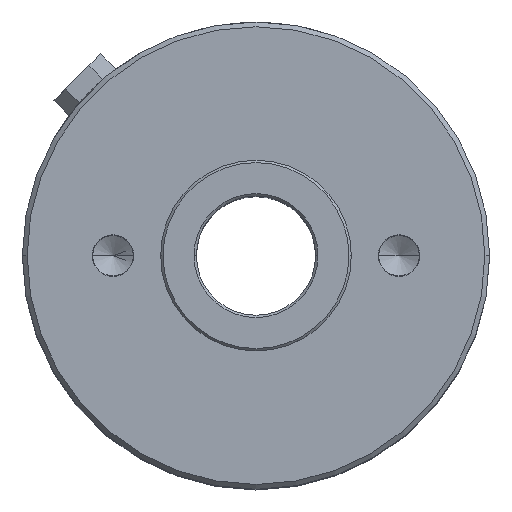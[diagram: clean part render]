
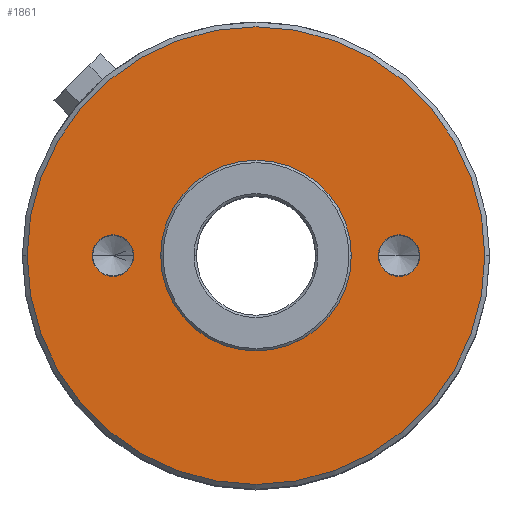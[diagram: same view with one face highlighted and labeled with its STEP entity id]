
A CAD part, top view. The second image highlights one B-rep face of the part: STEP entity #1861.
In plain terms, the highlighted planar face has unit normal (0, 0, 1).
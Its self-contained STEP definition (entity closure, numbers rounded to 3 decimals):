
#29 = CIRCLE ( 'NONE', #1211, 48. ) ;
#58 = CARTESIAN_POINT ( 'NONE',  ( -30., 0., 90. ) ) ;
#101 = FACE_BOUND ( 'NONE', #1368, .T. ) ;
#126 = DIRECTION ( 'NONE',  ( 0., 0., -1. ) ) ;
#161 = DIRECTION ( 'NONE',  ( 0., 0., -1. ) ) ;
#182 = DIRECTION ( 'NONE',  ( 1., 0., 0. ) ) ;
#184 = DIRECTION ( 'NONE',  ( 0., 0., 1. ) ) ;
#193 = CARTESIAN_POINT ( 'NONE',  ( 0., 0., 90. ) ) ;
#198 = EDGE_CURVE ( 'NONE', #482, #945, #858, .T. ) ;
#205 = DIRECTION ( 'NONE',  ( 1., 0., 0. ) ) ;
#232 = EDGE_CURVE ( 'NONE', #500, #1605, #871, .T. ) ;
#233 = CIRCLE ( 'NONE', #1196, 20. ) ;
#270 = CIRCLE ( 'NONE', #1631, 4.35 ) ;
#414 = DIRECTION ( 'NONE',  ( 0., 0., -1. ) ) ;
#415 = EDGE_CURVE ( 'NONE', #1624, #989, #518, .T. ) ;
#457 = CARTESIAN_POINT ( 'NONE',  ( 48., 0., 90. ) ) ;
#482 = VERTEX_POINT ( 'NONE', #732 ) ;
#496 = DIRECTION ( 'NONE',  ( 1., 0., 0. ) ) ;
#500 = VERTEX_POINT ( 'NONE', #1873 ) ;
#518 = CIRCLE ( 'NONE', #1139, 4.35 ) ;
#563 = FACE_BOUND ( 'NONE', #725, .T. ) ;
#575 = FACE_BOUND ( 'NONE', #1634, .T. ) ;
#605 = CARTESIAN_POINT ( 'NONE',  ( 30., 0., 90. ) ) ;
#614 = DIRECTION ( 'NONE',  ( 0., 0., 1. ) ) ;
#644 = DIRECTION ( 'NONE',  ( 0., 0., 1. ) ) ;
#668 = CARTESIAN_POINT ( 'NONE',  ( 0., 0., 90. ) ) ;
#671 = DIRECTION ( 'NONE',  ( 0., 0., 1. ) ) ;
#676 = CARTESIAN_POINT ( 'NONE',  ( 30., 0., 90. ) ) ;
#677 = DIRECTION ( 'NONE',  ( 1., 0., 0. ) ) ;
#692 = EDGE_CURVE ( 'NONE', #1339, #1026, #1074, .T. ) ;
#710 = ORIENTED_EDGE ( 'NONE', *, *, #898, .F. ) ;
#725 = EDGE_LOOP ( 'NONE', ( #710, #936 ) ) ;
#732 = CARTESIAN_POINT ( 'NONE',  ( -48., 0., 90. ) ) ;
#780 = CARTESIAN_POINT ( 'NONE',  ( 0., 0., 90. ) ) ;
#844 = ORIENTED_EDGE ( 'NONE', *, *, #692, .T. ) ;
#845 = CARTESIAN_POINT ( 'NONE',  ( 0., 0., 90. ) ) ;
#858 = CIRCLE ( 'NONE', #1423, 48. ) ;
#871 = CIRCLE ( 'NONE', #1329, 20. ) ;
#875 = EDGE_CURVE ( 'NONE', #989, #1624, #1679, .T. ) ;
#898 = EDGE_CURVE ( 'NONE', #1605, #500, #233, .T. ) ;
#936 = ORIENTED_EDGE ( 'NONE', *, *, #232, .F. ) ;
#941 = DIRECTION ( 'NONE',  ( 1., 0., 0. ) ) ;
#945 = VERTEX_POINT ( 'NONE', #457 ) ;
#984 = AXIS2_PLACEMENT_3D ( 'NONE', #605, #414, #1100 ) ;
#985 = DIRECTION ( 'NONE',  ( 1., 0., 0. ) ) ;
#989 = VERTEX_POINT ( 'NONE', #1788 ) ;
#1026 = VERTEX_POINT ( 'NONE', #1138 ) ;
#1072 = CARTESIAN_POINT ( 'NONE',  ( -30., 0., 90. ) ) ;
#1074 = CIRCLE ( 'NONE', #1736, 4.35 ) ;
#1100 = DIRECTION ( 'NONE',  ( 1., 0., 0. ) ) ;
#1103 = CARTESIAN_POINT ( 'NONE',  ( 0., 0., 90. ) ) ;
#1138 = CARTESIAN_POINT ( 'NONE',  ( -25.65, 0., 90. ) ) ;
#1139 = AXIS2_PLACEMENT_3D ( 'NONE', #676, #161, #1255 ) ;
#1163 = EDGE_CURVE ( 'NONE', #1026, #1339, #270, .T. ) ;
#1165 = ORIENTED_EDGE ( 'NONE', *, *, #875, .T. ) ;
#1188 = ORIENTED_EDGE ( 'NONE', *, *, #415, .T. ) ;
#1196 = AXIS2_PLACEMENT_3D ( 'NONE', #780, #1412, #941 ) ;
#1210 = EDGE_LOOP ( 'NONE', ( #1595, #1270 ) ) ;
#1211 = AXIS2_PLACEMENT_3D ( 'NONE', #668, #671, #677 ) ;
#1235 = ORIENTED_EDGE ( 'NONE', *, *, #1163, .T. ) ;
#1248 = CARTESIAN_POINT ( 'NONE',  ( -34.35, 0., 90. ) ) ;
#1252 = CARTESIAN_POINT ( 'NONE',  ( 25.65, 0., 90. ) ) ;
#1255 = DIRECTION ( 'NONE',  ( 1., 0., 0. ) ) ;
#1270 = ORIENTED_EDGE ( 'NONE', *, *, #1320, .T. ) ;
#1285 = FACE_OUTER_BOUND ( 'NONE', #1210, .T. ) ;
#1320 = EDGE_CURVE ( 'NONE', #945, #482, #29, .T. ) ;
#1329 = AXIS2_PLACEMENT_3D ( 'NONE', #193, #184, #205 ) ;
#1339 = VERTEX_POINT ( 'NONE', #1248 ) ;
#1359 = AXIS2_PLACEMENT_3D ( 'NONE', #1103, #644, #1572 ) ;
#1368 = EDGE_LOOP ( 'NONE', ( #1165, #1188 ) ) ;
#1376 = CARTESIAN_POINT ( 'NONE',  ( -20., 0., 90. ) ) ;
#1412 = DIRECTION ( 'NONE',  ( 0., 0., 1. ) ) ;
#1418 = PLANE ( 'NONE',  #1359 ) ;
#1423 = AXIS2_PLACEMENT_3D ( 'NONE', #845, #614, #496 ) ;
#1478 = DIRECTION ( 'NONE',  ( 0., 0., -1. ) ) ;
#1572 = DIRECTION ( 'NONE',  ( 1., 0., 0. ) ) ;
#1595 = ORIENTED_EDGE ( 'NONE', *, *, #198, .T. ) ;
#1605 = VERTEX_POINT ( 'NONE', #1376 ) ;
#1624 = VERTEX_POINT ( 'NONE', #1252 ) ;
#1631 = AXIS2_PLACEMENT_3D ( 'NONE', #58, #126, #182 ) ;
#1634 = EDGE_LOOP ( 'NONE', ( #1235, #844 ) ) ;
#1679 = CIRCLE ( 'NONE', #984, 4.35 ) ;
#1736 = AXIS2_PLACEMENT_3D ( 'NONE', #1072, #1478, #985 ) ;
#1788 = CARTESIAN_POINT ( 'NONE',  ( 34.35, 0., 90. ) ) ;
#1861 = ADVANCED_FACE ( 'NONE', ( #1285, #101, #575, #563 ), #1418, .T. ) ;
#1873 = CARTESIAN_POINT ( 'NONE',  ( 20., 0., 90. ) ) ;
